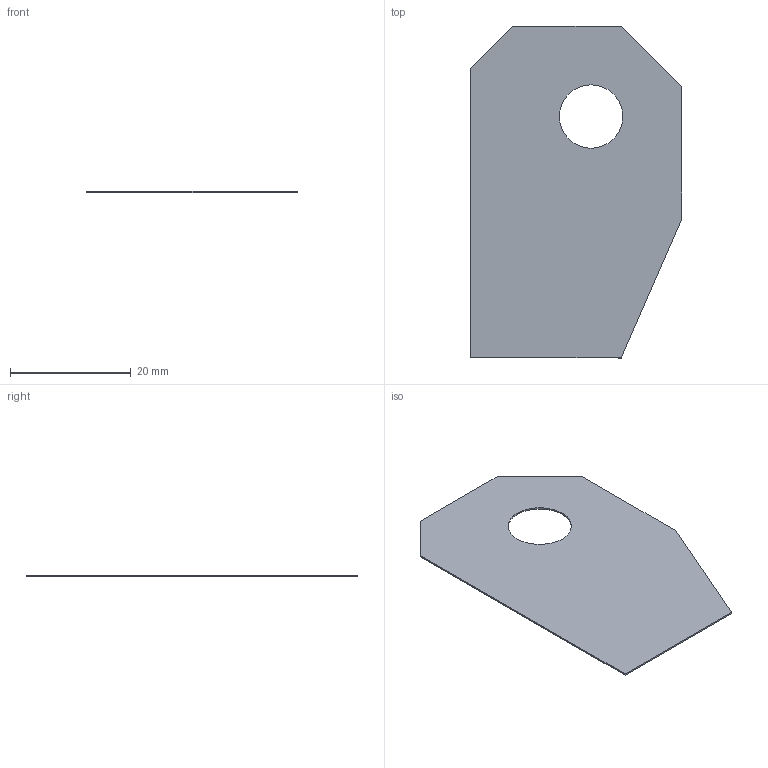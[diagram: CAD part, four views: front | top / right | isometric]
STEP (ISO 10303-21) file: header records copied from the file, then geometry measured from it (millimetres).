
FILE_DESCRIPTION(/* description */ ('FEUILLE MYLAR SUPPORT SUPPORT SPHERE 2','CAx-IF Rec.Pracs.---Representation and Presentation of Product Manufacturing Information (PMI)---4.0---2014-10-13'),/* implementation_level */ '2;1');
FILE_NAME(/* name */ 'VV180213-A.stp',/* time_stamp */ '2025-09-29T14:33:38+02:00',/* author */ ('RIVIERE C.'),/* organization */ (''),/* preprocessor_version */ 'ST-DEVELOPER v20',/* originating_system */ 'Autodesk Inventor 2025',/* authorisation */ '');
FILE_SCHEMA (('AP242_MANAGED_MODEL_BASED_3D_ENGINEERING_MIM_LF { 1 0 10303 442 1 1 4 }'));
Length unit declared in the file: millimetre
Products named in the file (1): VICTOR.V.18.02.13
Bounding box: 35 x 55 x 0.25 mm (x, y, z)
Volume: 412.2 mm3; surface area: 3346.6 mm2
Topology: 1 solids, 1 shells, 10 faces, 24 edges, 16 vertices
Faces by surface type: plane 9, cylinder 1
Full cylindrical faces by diameter (mm): 10.5 x1
Entity records: 461 total; most frequent: CARTESIAN_POINT 91, DIRECTION 60, ORIENTED_EDGE 48, EDGE_CURVE 24, LINE 22, VECTOR 22, STYLED_ITEM 20, AXIS2_PLACEMENT_3D 19
